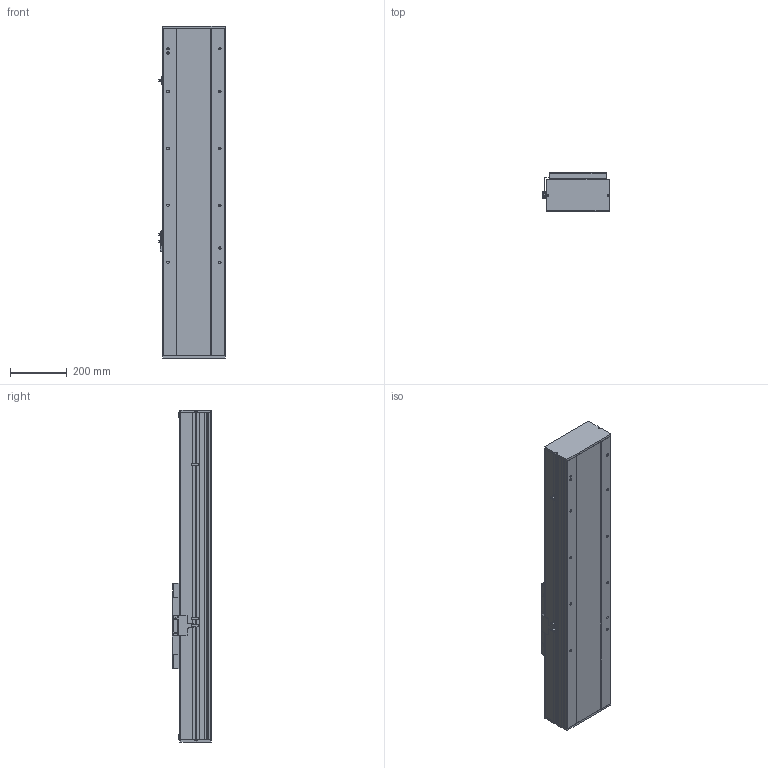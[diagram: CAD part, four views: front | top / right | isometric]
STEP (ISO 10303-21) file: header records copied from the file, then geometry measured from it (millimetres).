
FILE_DESCRIPTION (( 'STEP AP214' ), '1' );
FILE_NAME ('TPF22-550-M-P75.STEP', '2023-03-29T06:25:28', ( '' ), ( '' ), 'SwSTEP 2.0', 'SolidWorks 2020', '' );
FILE_SCHEMA (( 'AUTOMOTIVE_DESIGN' ));
Length unit declared in the file: millimetre
Products named in the file (6): TPF22-550-M-P75; 葩璃 TPF22-BC-002 耜裔ZTMZ-220-04^TPF22-M-P75; 葩璃 TPF22-BC-001 菁釱MZ-220-01^TPF22-M-P75; 葩璃 TPE22 賑雄殤^TPF22-M-P75; 葩璃 pm-t65-672^TPF22-M-P75; 葩璃 詩湍150^TPF22-M-P75
Assembly tree (8 placements, depth 2):
  TPF22-550-M-P75
    葩璃 TPF22-BC-001 菁釱MZ-220-01^TPF22-M-P75
    葩璃 TPF22-BC-002 耜裔ZTMZ-220-04^TPF22-M-P75  x2
    葩璃 TPE22 賑雄殤^TPF22-M-P75
    葩璃 詩湍150^TPF22-M-P75
    葩璃 pm-t65-672^TPF22-M-P75  x3
Bounding box: 233.7 x 138 x 1166 mm (x, y, z)
Volume: 13637858.6 mm3; surface area: 1981434 mm2
Topology: 14 solids, 14 shells, 854 faces, 2283 edges, 1466 vertices
Faces by surface type: plane 570, cylinder 232, cone 44, bspline 8
Entity records: 20005 total; most frequent: CARTESIAN_POINT 3590, DIRECTION 3155, ORIENTED_EDGE 3122, EDGE_CURVE 1561, VECTOR 1117, LINE 1117, AXIS2_PLACEMENT_3D 1019, VERTEX_POINT 1010
